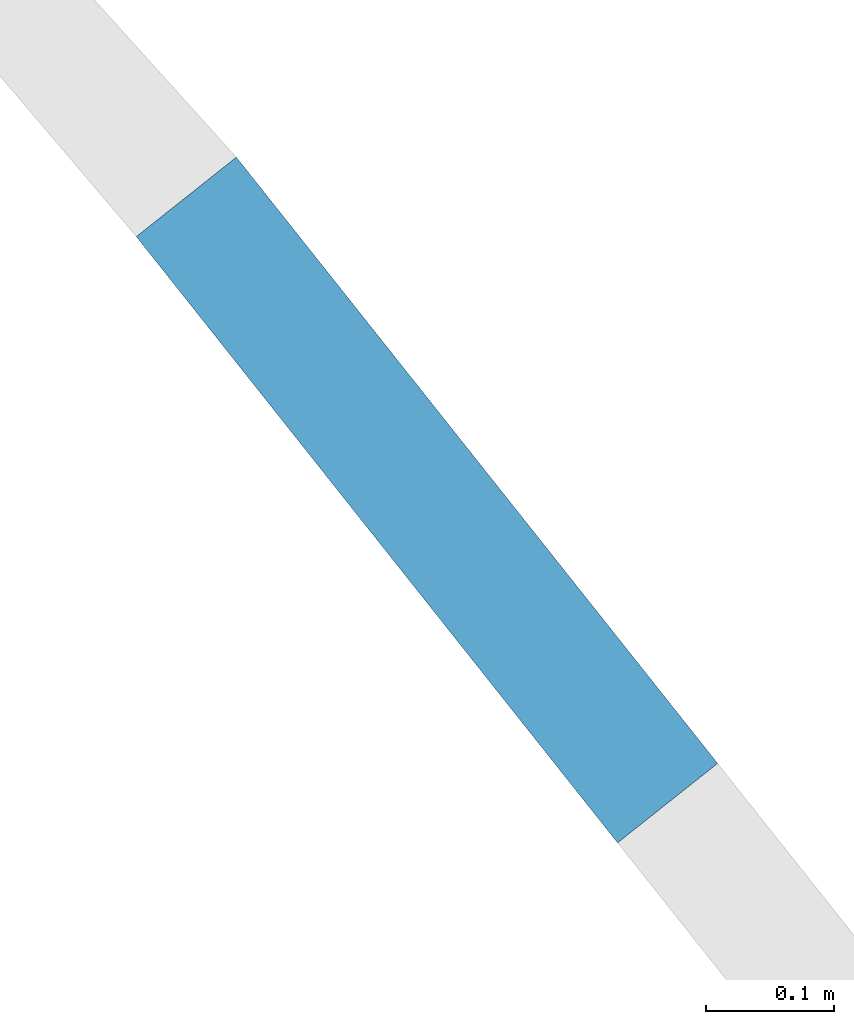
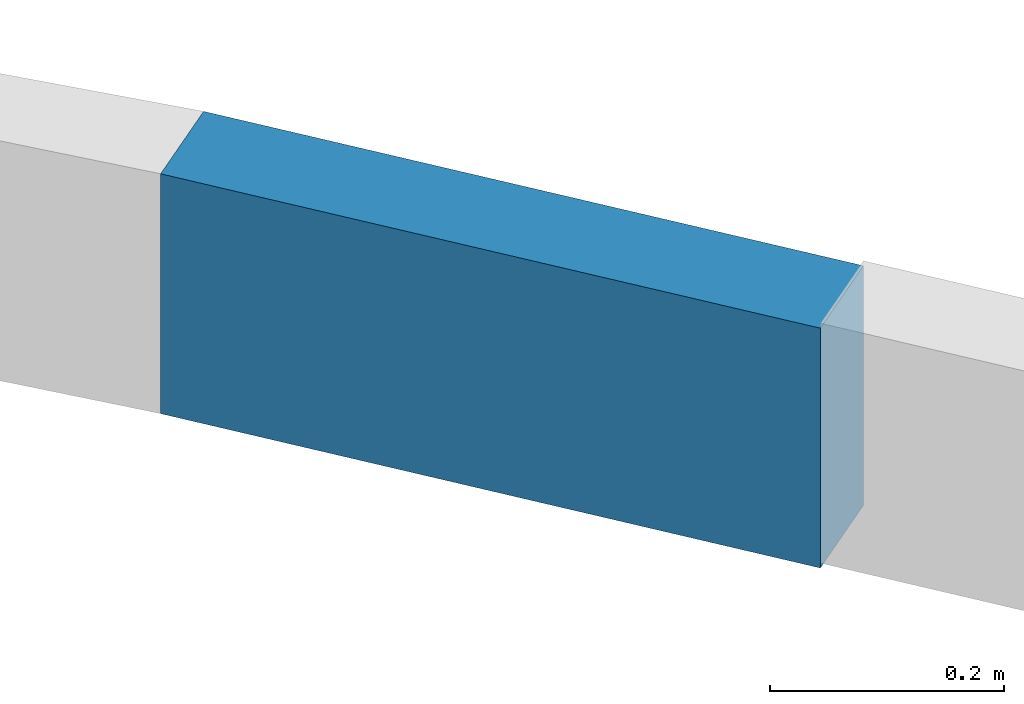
# One storey, part 8 of 24: 1 beam.
"""IFC2X3 building model written with IfcOpenShell, lengths in millimetres."""

from ifc_helpers import new_model, entity, si_unit, converted_unit, derived_unit, direction, frame, origin, place, context, subcontext, project, spatial, polyline, outline, extrude, material, type_object, element, save


model = new_model("IFC2X3")

# Units and contexts
model_context = context("Model", 3, precision=0.01, world=origin(), true_north=direction((6.123031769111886e-17, 1.0)))
body_context = subcontext(model_context, "Body", "Model", "MODEL_VIEW")
ifc_project = project(units=[si_unit("LENGTHUNIT", "METRE", prefix="MILLI"), si_unit("AREAUNIT", "SQUARE_METRE"), si_unit("VOLUMEUNIT", "CUBIC_METRE"), converted_unit("PLANEANGLEUNIT", "DEGREE", entity("IfcRatioMeasure", 0.017453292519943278), si_unit("PLANEANGLEUNIT", "RADIAN"), dimensions=[0, 0, 0, 0, 0, 0, 0]), si_unit("MASSUNIT", "GRAM", prefix="KILO"), derived_unit("MASSDENSITYUNIT", [(si_unit("MASSUNIT", "GRAM", prefix="KILO"), 1), (si_unit("LENGTHUNIT", "METRE"), -3)]), derived_unit("MOMENTOFINERTIAUNIT", [(si_unit("LENGTHUNIT", "METRE"), 4)]), si_unit("TIMEUNIT", "SECOND"), si_unit("FREQUENCYUNIT", "HERTZ"), si_unit("THERMODYNAMICTEMPERATUREUNIT", "DEGREE_CELSIUS"), derived_unit("THERMALTRANSMITTANCEUNIT", [(si_unit("MASSUNIT", "GRAM", prefix="KILO"), 1), (si_unit("THERMODYNAMICTEMPERATUREUNIT", "KELVIN"), -1), (si_unit("TIMEUNIT", "SECOND"), -3)]), derived_unit("THERMALCONDUCTANCEUNIT", [(si_unit("MASSUNIT", "GRAM", prefix="KILO"), 1), (si_unit("LENGTHUNIT", "METRE"), 1), (si_unit("THERMODYNAMICTEMPERATUREUNIT", "KELVIN"), -1), (si_unit("TIMEUNIT", "SECOND"), -3)]), derived_unit("VOLUMETRICFLOWRATEUNIT", [(si_unit("LENGTHUNIT", "METRE"), 3), (si_unit("TIMEUNIT", "SECOND"), -1)]), derived_unit("MASSFLOWRATEUNIT", [(si_unit("MASSUNIT", "GRAM", prefix="KILO"), 1), (si_unit("TIMEUNIT", "SECOND"), -1)]), derived_unit("ROTATIONALFREQUENCYUNIT", [(si_unit("TIMEUNIT", "SECOND"), -1)]), si_unit("ELECTRICCURRENTUNIT", "AMPERE"), si_unit("ELECTRICVOLTAGEUNIT", "VOLT"), si_unit("POWERUNIT", "WATT"), converted_unit("FORCEUNIT", "KIP", entity("IfcRatioMeasure", 2.088543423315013e-05), si_unit("FORCEUNIT", "NEWTON"), dimensions=[1, 1, -2, 0, 0, 0, 0]), si_unit("ILLUMINANCEUNIT", "LUX"), si_unit("LUMINOUSFLUXUNIT", "LUMEN"), si_unit("LUMINOUSINTENSITYUNIT", "CANDELA"), derived_unit("USERDEFINED", [(si_unit("MASSUNIT", "GRAM", prefix="KILO"), -1), (si_unit("LENGTHUNIT", "METRE"), -2), (si_unit("TIMEUNIT", "SECOND"), 3), (si_unit("LUMINOUSFLUXUNIT", "LUMEN"), 1)]), derived_unit("USERDEFINED", [(si_unit("MASSUNIT", "GRAM", prefix="KILO"), 1), (si_unit("LENGTHUNIT", "METRE"), 3), (si_unit("TIMEUNIT", "SECOND"), -3), (si_unit("ELECTRICCURRENTUNIT", "AMPERE"), -2)]), derived_unit("USERDEFINED", [(si_unit("LENGTHUNIT", "METRE"), 2), (si_unit("TIMEUNIT", "SECOND"), -2)]), derived_unit("SOUNDPOWERUNIT", [(si_unit("MASSUNIT", "GRAM", prefix="KILO"), 1), (si_unit("LENGTHUNIT", "METRE"), 2), (si_unit("TIMEUNIT", "SECOND"), -3)]), derived_unit("SOUNDPRESSUREUNIT", [(si_unit("MASSUNIT", "GRAM", prefix="KILO"), 1), (si_unit("LENGTHUNIT", "METRE"), -1), (si_unit("TIMEUNIT", "SECOND"), -2)]), derived_unit("LINEARVELOCITYUNIT", [(si_unit("LENGTHUNIT", "METRE"), 1), (si_unit("TIMEUNIT", "SECOND"), -1)]), si_unit("PRESSUREUNIT", "PASCAL"), derived_unit("USERDEFINED", [(si_unit("LENGTHUNIT", "METRE"), -2), (si_unit("MASSUNIT", "GRAM", prefix="KILO"), 1), (si_unit("TIMEUNIT", "SECOND"), -2)]), derived_unit("LINEARFORCEUNIT", [(si_unit("MASSUNIT", "GRAM", prefix="KILO"), 1), (si_unit("LENGTHUNIT", "METRE"), 1), (si_unit("TIMEUNIT", "SECOND"), -2), (si_unit("LENGTHUNIT", "METRE"), -1)]), derived_unit("PLANARFORCEUNIT", [(si_unit("MASSUNIT", "GRAM", prefix="KILO"), 1), (si_unit("LENGTHUNIT", "METRE"), 1), (si_unit("TIMEUNIT", "SECOND"), -2), (si_unit("LENGTHUNIT", "METRE"), -2)]), derived_unit("SPECIFICHEATCAPACITYUNIT", [(si_unit("LENGTHUNIT", "METRE"), 2), (si_unit("TIMEUNIT", "SECOND"), -2), (si_unit("THERMODYNAMICTEMPERATUREUNIT", "KELVIN"), -1)]), derived_unit("VAPORPERMEABILITYUNIT", [(si_unit("TIMEUNIT", "SECOND"), 1), (si_unit("LENGTHUNIT", "METRE"), -1)]), derived_unit("DYNAMICVISCOSITYUNIT", [(si_unit("MASSUNIT", "GRAM", prefix="KILO"), 1), (si_unit("LENGTHUNIT", "METRE"), -1), (si_unit("TIMEUNIT", "SECOND"), -1)]), derived_unit("THERMALEXPANSIONCOEFFICIENTUNIT", [(si_unit("THERMODYNAMICTEMPERATUREUNIT", "KELVIN"), -1)])], contexts=[model_context])

# Site, building, storey
site_placement = place(None, frame((0.0, 0.0, 0.0), z_axis=(0.0, 0.0, 1.0), x_axis=(0.8191520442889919, 0.5735764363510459, 0.0)))
site = spatial("IfcSite", under=ifc_project, at=site_placement, Name="Default", CompositionType="ELEMENT")
building_placement = place(site_placement, origin())
building = spatial("IfcBuilding", under=site, at=building_placement, CompositionType="ELEMENT")
storey_placement = place(building_placement, frame((0.0, 0.0, -1150.0)))
storey = spatial("IfcBuildingStorey", under=building, at=storey_placement, Name="6.EG KH -1.15", CompositionType="ELEMENT", Elevation=-1150.0000000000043)

# Beam
ifc_material = material(Name="Paint-01")
beam_type = type_object("IfcBeamType", Name="Beam-166 262444:Beam-166 262444", PredefinedType="NOTDEFINED")
beam_placement = place(storey_placement, origin())
element("IfcBeam", 1, at=beam_placement, inside=storey, type_object=beam_type, material=ifc_material, Name="Beam-166", ObjectType="Beam-166 262444:Beam-166 262444", context=body_context, shape_type="SweptSolid", body=[
    extrude(outline(polyline([(-303.9406263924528, -125.0), (301.8284841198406, -125.0), (303.94062639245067, 125.0), (-301.82848411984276, 125.0), (-303.9406263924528, -125.0)])), frame((-164844.04690266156, -11700.87826309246, 1032.4366891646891), z_axis=(0.9981911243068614, 0.060120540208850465, 0.0), x_axis=(0.06011839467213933, -0.998155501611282, -0.008448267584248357)), (0.0, 0.0, 1.0), 100.00000000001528),
])

save(model, "model.ifc")
